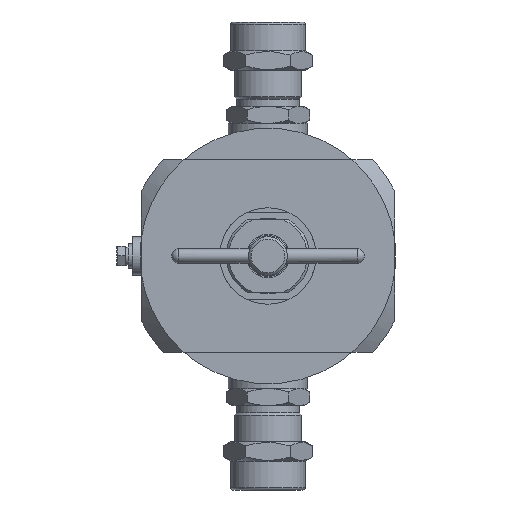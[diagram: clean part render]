
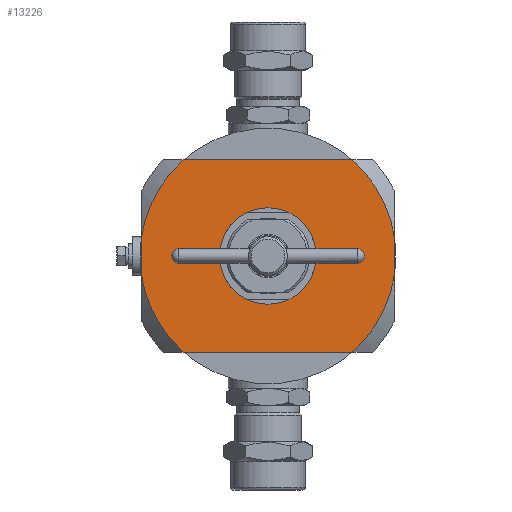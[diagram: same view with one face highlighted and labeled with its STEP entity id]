
A CAD part, front view. The second image highlights one B-rep face of the part: STEP entity #13226.
In plain terms, the highlighted planar face has unit normal (0, -1, 0).
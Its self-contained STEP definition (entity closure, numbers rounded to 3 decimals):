
#13226=ADVANCED_FACE('',(#28943,#28945),#28947,.T.);
#28943=FACE_BOUND('',#28944,.T.);
#28944=EDGE_LOOP('',(#39024,#39025,#39026,#39027,#39028,#39029,#39030,#39031));
#28945=FACE_BOUND('',#28946,.T.);
#28946=EDGE_LOOP('',(#39032));
#28947=PLANE('',#28948);
#28948=AXIS2_PLACEMENT_3D('',#28949,#28950,#28951);
#28949=CARTESIAN_POINT('',(0.,-24.,0.));
#28950=DIRECTION('',(0.,-1.,0.));
#28951=DIRECTION('',(1.,0.,0.));
#39024=ORIENTED_EDGE('',*,*,#44095,.T.);
#39025=ORIENTED_EDGE('',*,*,#44165,.T.);
#39026=ORIENTED_EDGE('',*,*,#44118,.T.);
#39027=ORIENTED_EDGE('',*,*,#44166,.T.);
#39028=ORIENTED_EDGE('',*,*,#44112,.T.);
#39029=ORIENTED_EDGE('',*,*,#44167,.T.);
#39030=ORIENTED_EDGE('',*,*,#44101,.T.);
#39031=ORIENTED_EDGE('',*,*,#44168,.T.);
#39032=ORIENTED_EDGE('',*,*,#44169,.F.);
#44095=EDGE_CURVE('',#51279,#51277,#51280,.F.);
#44101=EDGE_CURVE('',#51289,#51290,#51291,.F.);
#44112=EDGE_CURVE('',#51309,#51307,#51310,.F.);
#44118=EDGE_CURVE('',#51319,#51320,#51321,.F.);
#44165=EDGE_CURVE('',#51277,#51319,#51404,.T.);
#44166=EDGE_CURVE('',#51320,#51309,#51405,.T.);
#44167=EDGE_CURVE('',#51307,#51289,#51406,.T.);
#44168=EDGE_CURVE('',#51290,#51279,#51407,.T.);
#44169=EDGE_CURVE('',#51408,#51408,#51409,.T.);
#51277=VERTEX_POINT('',#74029);
#51279=VERTEX_POINT('',#74043);
#51280=LINE('',#74044,#74045);
#51289=VERTEX_POINT('',#74114);
#51290=VERTEX_POINT('',#74115);
#51291=LINE('',#74116,#74117);
#51307=VERTEX_POINT('',#74248);
#51309=VERTEX_POINT('',#74262);
#51310=LINE('',#74263,#74264);
#51319=VERTEX_POINT('',#74333);
#51320=VERTEX_POINT('',#74334);
#51321=LINE('',#74335,#74336);
#51404=CIRCLE('',#75069,53.);
#51405=CIRCLE('',#75073,53.);
#51406=CIRCLE('',#75077,53.);
#51407=CIRCLE('',#75081,53.);
#51408=VERTEX_POINT('',#75085);
#51409=CIRCLE('',#75086,20.);
#74029=CARTESIAN_POINT('',(34.771,-24.,-40.));
#74043=CARTESIAN_POINT('',(-34.771,-24.,-40.));
#74044=CARTESIAN_POINT('',(34.771,-24.,-40.));
#74045=VECTOR('',#74046,1.);
#74046=DIRECTION('',(-1.,0.,0.));
#74114=CARTESIAN_POINT('',(-52.5,-24.,7.263));
#74115=CARTESIAN_POINT('',(-52.5,-24.,-7.263));
#74116=CARTESIAN_POINT('',(-52.5,-24.,-7.263));
#74117=VECTOR('',#74118,1.);
#74118=DIRECTION('',(0.,0.,1.));
#74248=CARTESIAN_POINT('',(-34.771,-24.,40.));
#74262=CARTESIAN_POINT('',(34.771,-24.,40.));
#74263=CARTESIAN_POINT('',(-34.771,-24.,40.));
#74264=VECTOR('',#74265,1.);
#74265=DIRECTION('',(1.,0.,0.));
#74333=CARTESIAN_POINT('',(52.5,-24.,-7.263));
#74334=CARTESIAN_POINT('',(52.5,-24.,7.263));
#74335=CARTESIAN_POINT('',(52.5,-24.,7.263));
#74336=VECTOR('',#74337,1.);
#74337=DIRECTION('',(0.,0.,-1.));
#75069=AXIS2_PLACEMENT_3D('',#75070,#75071,#75072);
#75070=CARTESIAN_POINT('',(0.,-24.,0.));
#75071=DIRECTION('',(0.,-1.,0.));
#75072=DIRECTION('',(0.656,0.,-0.755));
#75073=AXIS2_PLACEMENT_3D('',#75074,#75075,#75076);
#75074=CARTESIAN_POINT('',(0.,-24.,0.));
#75075=DIRECTION('',(0.,-1.,0.));
#75076=DIRECTION('',(0.991,0.,0.137));
#75077=AXIS2_PLACEMENT_3D('',#75078,#75079,#75080);
#75078=CARTESIAN_POINT('',(0.,-24.,0.));
#75079=DIRECTION('',(0.,-1.,0.));
#75080=DIRECTION('',(-0.656,0.,0.755));
#75081=AXIS2_PLACEMENT_3D('',#75082,#75083,#75084);
#75082=CARTESIAN_POINT('',(0.,-24.,0.));
#75083=DIRECTION('',(0.,-1.,0.));
#75084=DIRECTION('',(-0.991,0.,-0.137));
#75085=CARTESIAN_POINT('',(20.,-24.,0.));
#75086=AXIS2_PLACEMENT_3D('',#75087,#75088,#75089);
#75087=CARTESIAN_POINT('',(0.,-24.,0.));
#75088=DIRECTION('',(0.,-1.,0.));
#75089=DIRECTION('',(1.,0.,0.));
